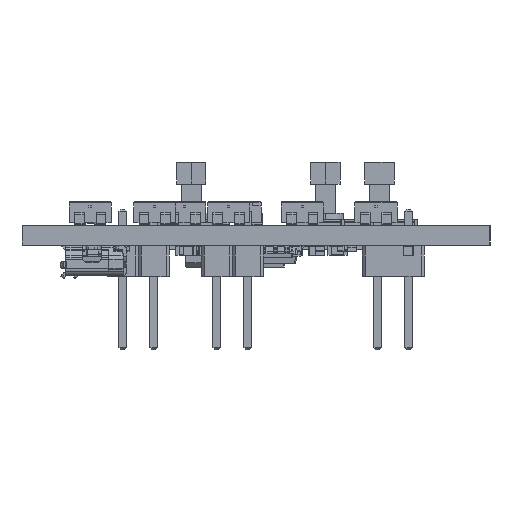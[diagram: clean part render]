
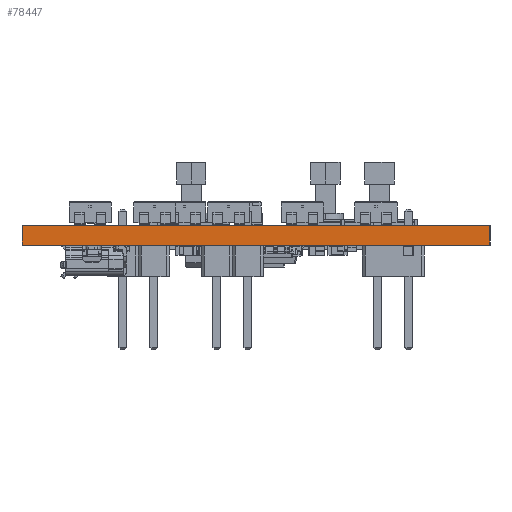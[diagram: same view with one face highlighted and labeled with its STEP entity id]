
A CAD part, left-side view. The second image highlights one B-rep face of the part: STEP entity #78447.
In plain terms, the highlighted planar face has unit normal (-1, 0, 0).
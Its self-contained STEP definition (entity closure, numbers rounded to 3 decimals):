
#76582 = VERTEX_POINT('',#76583);
#76583 = CARTESIAN_POINT('',(76.74,-104.655,0.));
#76589 = EDGE_CURVE('',#76582,#76590,#76592,.T.);
#76590 = VERTEX_POINT('',#76591);
#76591 = CARTESIAN_POINT('',(76.74,-66.258,0.));
#76592 = LINE('',#76593,#76594);
#76593 = CARTESIAN_POINT('',(76.74,-104.655,0.));
#76594 = VECTOR('',#76595,1.);
#76595 = DIRECTION('',(0.,1.,0.));
#77541 = VERTEX_POINT('',#77542);
#77542 = CARTESIAN_POINT('',(76.74,-104.655,1.6));
#77548 = EDGE_CURVE('',#77541,#77549,#77551,.T.);
#77549 = VERTEX_POINT('',#77550);
#77550 = CARTESIAN_POINT('',(76.74,-66.258,1.6));
#77551 = LINE('',#77552,#77553);
#77552 = CARTESIAN_POINT('',(76.74,-104.655,1.6));
#77553 = VECTOR('',#77554,1.);
#77554 = DIRECTION('',(0.,1.,0.));
#78417 = EDGE_CURVE('',#76590,#77549,#78418,.T.);
#78418 = LINE('',#78419,#78420);
#78419 = CARTESIAN_POINT('',(76.74,-66.258,0.));
#78420 = VECTOR('',#78421,1.);
#78421 = DIRECTION('',(0.,0.,1.));
#78447 = ADVANCED_FACE('',(#78448),#78459,.T.);
#78448 = FACE_BOUND('',#78449,.T.);
#78449 = EDGE_LOOP('',(#78450,#78456,#78457,#78458));
#78450 = ORIENTED_EDGE('',*,*,#78451,.T.);
#78451 = EDGE_CURVE('',#76582,#77541,#78452,.T.);
#78452 = LINE('',#78453,#78454);
#78453 = CARTESIAN_POINT('',(76.74,-104.655,0.));
#78454 = VECTOR('',#78455,1.);
#78455 = DIRECTION('',(0.,0.,1.));
#78456 = ORIENTED_EDGE('',*,*,#77548,.T.);
#78457 = ORIENTED_EDGE('',*,*,#78417,.F.);
#78458 = ORIENTED_EDGE('',*,*,#76589,.F.);
#78459 = PLANE('',#78460);
#78460 = AXIS2_PLACEMENT_3D('',#78461,#78462,#78463);
#78461 = CARTESIAN_POINT('',(76.74,-104.655,0.));
#78462 = DIRECTION('',(-1.,0.,0.));
#78463 = DIRECTION('',(0.,1.,0.));
